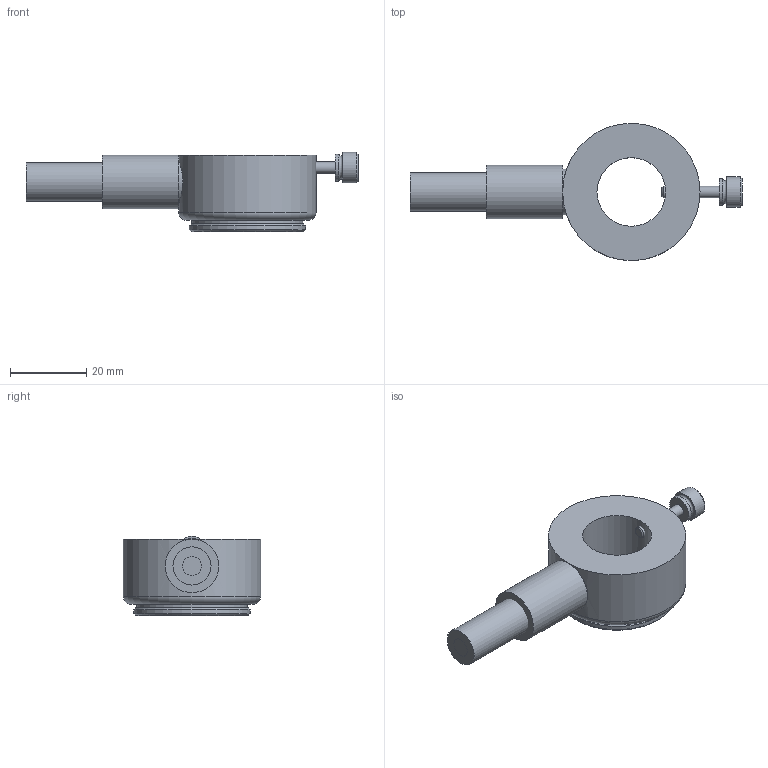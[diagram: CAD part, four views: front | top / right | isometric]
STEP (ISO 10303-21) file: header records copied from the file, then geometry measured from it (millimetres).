
FILE_DESCRIPTION(/* description */ (''),/* implementation_level */ '2;1');
FILE_NAME(/* name */ '//sv004/特品事業部/特品共通フォルダ/☆社外用データテスト/01_製品関連/0121_ライトガイド関連/3D図面/R18 共通照射部.step',/* time_stamp */ '2022-08-24T16:53:07+09:00',/* author */ (''),/* organization */ (''),/* preprocessor_version */ 'ST-DEVELOPER v19',/* originating_system */ 'Autodesk Translation Framework v11.7.0.108',/* authorisation */ '');
FILE_SCHEMA (('AUTOMOTIVE_DESIGN { 1 0 10303 214 3 1 1 }'));
Length unit declared in the file: millimetre
Products named in the file (2): R18 共通照射部; M3L15 ローレットネジ
Assembly tree (1 placements, depth 2):
  R18 共通照射部
    M3L15 ローレットネジ
Bounding box: 87 x 36 x 20.75 mm (x, y, z)
Volume: 21187.1 mm3; surface area: 8041.9 mm2
Topology: 4 solids, 4 shells, 34 faces, 58 edges, 34 vertices
Faces by surface type: plane 15, cylinder 13, cone 4, torus 2
Full cylindrical faces by diameter (mm): 2.529 x1, 3 x1, 5 x1, 7 x1, 8 x1, 10 x1, 14 x1, 18 x1, 29 x1, 30.5 x1, 36 x1
Entity records: 958 total; most frequent: CARTESIAN_POINT 232, DIRECTION 159, ORIENTED_EDGE 116, AXIS2_PLACEMENT_3D 70, EDGE_CURVE 58, EDGE_LOOP 42, FACE_OUTER_BOUND 34, VERTEX_POINT 34
